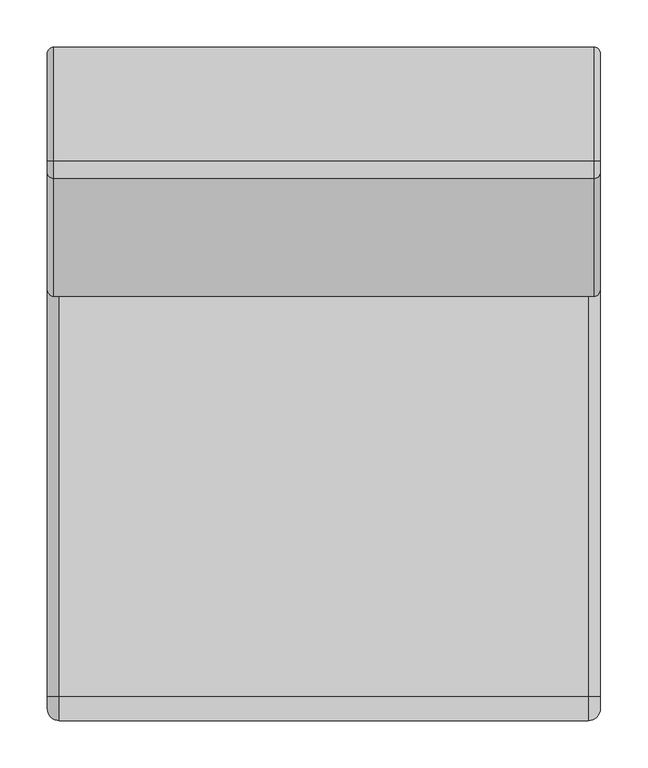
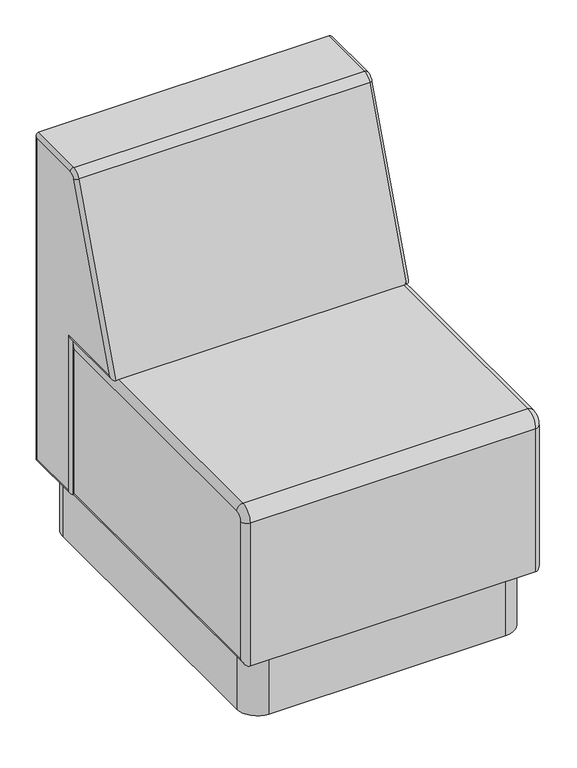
"""IFC4 building model written with IfcOpenShell, lengths in millimetres: furniture geometry, Stance_HC-Rosetta-Modular_Seating_Plinth_Base : RM100P-AL-BHP."""

from ifc_helpers import new_model, si_unit, point, frame, frame_2d, origin, origin_with_axes, place, context, project, spatial, polyline, circle_curve, ellipse_curve, trimmed, segment, composite_curve, outline, extrude, source, transform, mapped, element, save
from ifc_brep_helpers import plane_surface, cylinder_surface, revolved_surface, advanced_brep


def furniture_1c94559b(model_context):
    return source(origin(), model_context, "Body", "SolidModel", [
        extrude(outline(composite_curve([segment(trimmed(circle_curve(frame_2d((54.0078674, -657.1680567)), 11.90625), [point((54.0078674, -669.0743067))], [point((54.0078674, -645.2618067))], False, "CARTESIAN"), True, "CONTINUOUS"), segment(trimmed(circle_curve(frame_2d((54.0078674, -657.1680567)), 11.90625), [point((54.0078674, -645.2618067))], [point((54.0078674, -669.0743067))], False, "CARTESIAN"), True, "CONTINUOUS")], self_intersect=False)), origin_with_axes(), (0.0, 0.0, 1.0), 6.3627),
        extrude(outline(composite_curve([segment(trimmed(circle_curve(frame_2d((530.1921326, -657.1680567)), 11.90625), [point((530.1921326, -669.0743067))], [point((530.1921326, -645.2618067))], False, "CARTESIAN"), True, "CONTINUOUS"), segment(trimmed(circle_curve(frame_2d((530.1921326, -657.1680567)), 11.90625), [point((530.1921326, -645.2618067))], [point((530.1921326, -669.0743067))], False, "CARTESIAN"), True, "CONTINUOUS")], self_intersect=False)), origin_with_axes(), (0.0, 0.0, 1.0), 6.3627),
        extrude(outline(composite_curve([segment(trimmed(circle_curve(frame_2d((54.0078674, -54.0319433)), 11.90625), [point((54.0078674, -65.9381933))], [point((54.0078674, -42.1256933))], False, "CARTESIAN"), True, "CONTINUOUS"), segment(trimmed(circle_curve(frame_2d((54.0078674, -54.0319433)), 11.90625), [point((54.0078674, -42.1256933))], [point((54.0078674, -65.9381933))], False, "CARTESIAN"), True, "CONTINUOUS")], self_intersect=False)), origin_with_axes(), (0.0, 0.0, 1.0), 6.3627),
        extrude(outline(composite_curve([segment(trimmed(circle_curve(frame_2d((530.1921326, -54.0319433)), 11.90625), [point((530.1921326, -65.9381933))], [point((530.1921326, -42.1256933))], False, "CARTESIAN"), True, "CONTINUOUS"), segment(trimmed(circle_curve(frame_2d((530.1921326, -54.0319433)), 11.90625), [point((530.1921326, -42.1256933))], [point((530.1921326, -65.9381933))], False, "CARTESIAN"), True, "CONTINUOUS")], self_intersect=False)), origin_with_axes(), (0.0, 0.0, 1.0), 6.3627),
        extrude(outline(composite_curve([segment(trimmed(circle_curve(frame_2d((524.2875, -59.9125)), 39.6875), [point((524.2875, -20.225))], [point((563.975, -59.9125))], False, "CARTESIAN"), True, "CONTINUOUS"), segment(polyline([(563.975, -59.9125), (563.975, -651.2875)]), True, "CONTINUOUS"), segment(trimmed(circle_curve(frame_2d((524.2875, -651.2875)), 39.6875), [point((563.975, -651.2875))], [point((524.2875, -690.975))], False, "CARTESIAN"), True, "CONTINUOUS"), segment(polyline([(524.2875, -690.975), (59.9125, -690.975)]), True, "CONTINUOUS"), segment(trimmed(circle_curve(frame_2d((59.9125, -651.2875)), 39.6875), [point((59.9125, -690.975))], [point((20.225, -651.2875))], False, "CARTESIAN"), True, "CONTINUOUS"), segment(polyline([(20.225, -651.2875), (20.225, -59.9125)]), True, "CONTINUOUS"), segment(trimmed(circle_curve(frame_2d((59.9125, -59.9125)), 39.6875), [point((20.225, -59.9125))], [point((59.9125, -20.225))], False, "CARTESIAN"), True, "CONTINUOUS"), segment(polyline([(59.9125, -20.225), (524.2875, -20.225)]), True, "CONTINUOUS")], self_intersect=False)), frame((0.0, 0.0, 6.3627), z_axis=(0.0, 0.0, 1.0), x_axis=(1.0, 0.0, 0.0)), (0.0, 0.0, 1.0), 128.51892),
        advanced_brep(
        [(571.5, -711.1999758, 431.8), (571.5, -685.7999758, 457.2), (12.7, -685.7999758, 457.2), (12.7, -711.1999758, 431.8), (12.7, -711.1999758, 134.88162), (571.5, -711.1999758, 134.88162), (12.7, -120.65, 134.88162), (571.5, -120.65, 134.88162), (12.7, -120.65, 457.2), (571.5, -120.65, 457.2), (584.2, -698.4999758, 147.58162), (584.2, -133.35, 147.58162), (584.2, -133.35, 444.5), (584.2, -685.7999758, 444.5), (584.2, -698.4999758, 431.8), (0.0, -685.7999758, 444.5), (0.0, -133.35, 444.5), (0.0, -133.35, 147.58162), (0.0, -698.4999758, 147.58162), (0.0, -698.4999758, 431.8)],
        [
            (0, 1, circle_curve(frame((571.5, -685.7999758, 431.8), z_axis=(-1.0, 0.0, 0.0), x_axis=(0.0, 0.0, 1.0)), 25.4)),
            (1, 2),
            (2, 3, circle_curve(frame((12.7, -685.7999758, 431.8), z_axis=(1.0, 0.0, 0.0), x_axis=(0.0, 0.0, 1.0)), 25.4)),
            (3, 0),
            (3, 4),
            (4, 5),
            (5, 0),
            (4, 6),
            (6, 7),
            (7, 5),
            (6, 8),
            (8, 9),
            (9, 7),
            (10, 11),
            (11, 12),
            (12, 13),
            (13, 14, circle_curve(frame((584.2, -685.7999758, 431.8), z_axis=(1.0, 0.0, 0.0), x_axis=(0.0, 0.0, 1.0)), 12.7)),
            (14, 10),
            (15, 16),
            (16, 17),
            (17, 18),
            (18, 19),
            (19, 15, circle_curve(frame((0.0, -685.7999758, 431.8), z_axis=(-1.0, 0.0, 0.0), x_axis=(0.0, 0.0, 1.0)), 12.7)),
            (1, 9),
            (8, 2),
            (0, 14, circle_curve(frame((571.5, -698.4999758, 431.8), z_axis=(0.0, 0.0, 1.0), x_axis=(0.0, 1.0, 0.0)), 12.7)),
            (13, 1, circle_curve(frame((571.5, -685.7999758, 444.5), z_axis=(0.0, -1.0, 0.0), x_axis=(0.0, 0.0, -1.0)), 12.7)),
            (2, 15, circle_curve(frame((12.7, -685.7999758, 444.5), z_axis=(0.0, -1.0, 0.0), x_axis=(0.0, 0.0, -1.0)), 12.7)),
            (19, 3, circle_curve(frame((12.7, -698.4999758, 431.8), z_axis=(0.0, 0.0, 1.0), x_axis=(0.0, 1.0, 0.0)), 12.7)),
            (5, 10, ellipse_curve(frame((571.5, -698.4999758, 147.58162), z_axis=(0.0, -0.7071067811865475, 0.7071067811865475), x_axis=(0.0, 0.7071067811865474, 0.7071067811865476)), 17.9605122, 12.7)),
            (18, 4, ellipse_curve(frame((12.7, -698.4999758, 147.58162), z_axis=(0.0, -0.7071067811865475, 0.7071067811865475), x_axis=(0.0, 0.7071067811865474, 0.7071067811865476)), 17.9605122, 12.7)),
            (7, 11, ellipse_curve(frame((571.5, -133.35, 147.58162), z_axis=(0.0, -0.7071067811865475, -0.7071067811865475), x_axis=(0.0, -0.7071067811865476, 0.7071067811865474)), 17.9605122, 12.7)),
            (17, 6, ellipse_curve(frame((12.7, -133.35, 147.58162), z_axis=(0.0, -0.7071067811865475, -0.7071067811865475), x_axis=(0.0, -0.7071067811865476, 0.7071067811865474)), 17.9605122, 12.7)),
            (9, 12, ellipse_curve(frame((571.5, -133.35, 444.5), z_axis=(0.0, 0.7071067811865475, -0.7071067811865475), x_axis=(0.0, -0.7071067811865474, -0.7071067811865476)), 17.9605122, 12.7)),
            (16, 8, ellipse_curve(frame((12.7, -133.35, 444.5), z_axis=(0.0, 0.7071067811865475, -0.7071067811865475), x_axis=(0.0, -0.7071067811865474, -0.7071067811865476)), 17.9605122, 12.7)),
        ],
        [
            cylinder_surface(frame((0.0, -685.7999758, 431.8), z_axis=(1.0, 0.0, 0.0), x_axis=(0.0, 0.0, 1.0)), 25.4),
            plane_surface(frame((12.7, -711.1999758, 431.8), z_axis=(0.0, -1.0, 0.0), x_axis=(0.0, 0.0, -1.0))),
            plane_surface(frame((12.7, -711.1999758, 134.88162), z_axis=(0.0, 0.0, -1.0), x_axis=(0.0, 1.0, 0.0))),
            plane_surface(frame((12.7, -120.65, 134.88162), z_axis=(0.0, 1.0, 0.0), x_axis=(0.0, 0.0, 1.0))),
            plane_surface(frame((584.2, -133.35, 444.5), z_axis=(1.0, 0.0, 0.0), x_axis=(0.0, -1.0, 0.0))),
            plane_surface(frame((0.0, -139.7, 438.15), z_axis=(-1.0, 0.0, 0.0), x_axis=(0.0, -1.0, 0.0))),
            plane_surface(frame((12.7, -120.65, 457.2), z_axis=(0.0, 0.0, 1.0), x_axis=(0.0, -1.0, 0.0))),
            revolved_surface(trimmed(ellipse_curve(frame((571.5, -685.7999758, 444.5), z_axis=(0.0, 1.0, 0.0), x_axis=(0.0, 0.0, -1.0)), 12.7, 12.7), [point((571.5, -685.7999758, 457.2))], [point((584.2, -685.7999758, 444.5))], True, "CARTESIAN"), (0.0, -685.7999758, 431.8), (1.0, 0.0, 0.0)),
            revolved_surface(trimmed(ellipse_curve(frame((12.7, -685.7999758, 444.5), z_axis=(0.0, 1.0, 0.0), x_axis=(0.0, 0.0, -1.0)), 12.7, 12.7), [point((0.0, -685.7999758, 444.5))], [point((12.7, -685.7999758, 457.2))], True, "CARTESIAN"), (0.0, -685.7999758, 431.8), (1.0, 0.0, 0.0)),
            cylinder_surface(frame((571.5, -698.4999758, 431.8), z_axis=(0.0, 0.0, 1.0), x_axis=(0.0, 1.0, 0.0)), 12.7),
            cylinder_surface(frame((12.7, -698.4999758, 431.8), z_axis=(0.0, 0.0, 1.0), x_axis=(0.0, 1.0, 0.0)), 12.7),
            cylinder_surface(frame((571.5, -711.1999758, 147.58162), z_axis=(0.0, -1.0, 0.0), x_axis=(0.0, 0.0, 1.0)), 12.7),
            cylinder_surface(frame((12.7, -711.1999758, 147.58162), z_axis=(0.0, -1.0, 0.0), x_axis=(0.0, 0.0, 1.0)), 12.7),
            cylinder_surface(frame((571.5, -133.35, 134.88162), z_axis=(0.0, 0.0, -1.0), x_axis=(0.0, -1.0, 0.0)), 12.7),
            cylinder_surface(frame((12.7, -133.35, 134.88162), z_axis=(0.0, 0.0, -1.0), x_axis=(0.0, -1.0, 0.0)), 12.7),
            cylinder_surface(frame((571.5, -120.65, 444.5), z_axis=(0.0, 1.0, 0.0), x_axis=(0.0, 0.0, -1.0)), 12.7),
            cylinder_surface(frame((12.7, -120.65, 444.5), z_axis=(0.0, 1.0, 0.0), x_axis=(0.0, 0.0, -1.0)), 12.7),
        ],
        [
            (0, [[1, 2, 3, 4]]),
            (1, [[-4, 5, 6, 7]]),
            (2, [[-6, 8, 9, 10]]),
            (3, [[-9, 11, 12, 13]]),
            (4, [[14, 15, 16, 17, 18]]),
            (5, [[19, 20, 21, 22, 23]]),
            (6, [[-2, 24, -12, 25]]),
            (7, [[-1, 26, -17, 27]]),
            (8, [[-3, 28, -23, 29]]),
            (9, [[-7, 30, -18, -26]]),
            (10, [[-5, -29, -22, 31]]),
            (11, [[-10, 32, -14, -30]]),
            (12, [[-8, -31, -21, 33]]),
            (13, [[-13, 34, -15, -32]]),
            (14, [[-11, -33, -20, 35]]),
            (15, [[-16, -34, -24, -27]]),
            (16, [[-19, -28, -25, -35]]),
        ],
    ),
        advanced_brep(
        [(584.2, -132.3105296, 798.0936558), (584.2, -120.3764333, 806.45), (577.85, -120.3764333, 812.8), (577.85, -138.2775777, 800.2654837), (6.35, -138.2775777, 800.2654837), (6.35, -120.3764333, 812.8), (0.0, -120.3764333, 806.45), (0.0, -132.3105296, 798.0936558), (577.85, -263.1432022, 457.2), (584.2, -254.0744624, 463.55), (0.0, -254.0744624, 463.55), (6.35, -263.1432022, 457.2), (577.85, -120.65, 457.2), (584.2, -114.3, 463.55), (0.0, -114.3, 463.55), (6.35, -120.65, 457.2), (577.85, -120.65, 134.88162), (584.2, -114.3, 141.23162), (0.0, -114.3, 141.23162), (6.35, -120.65, 134.88162), (577.85, 0.0, 134.88162), (584.2, -6.35, 141.23162), (0.0, -6.35, 141.23162), (6.35, 0.0, 134.88162), (577.85, 0.0, 812.8), (584.2, -6.35, 806.45), (0.0, -6.35, 806.45), (6.35, 0.0, 812.8)],
        [
            (0, 1, circle_curve(frame((584.2, -120.3764333, 793.75), z_axis=(-1.0, 0.0, 0.0), x_axis=(0.0, 0.0, 1.0)), 12.7)),
            (1, 2, circle_curve(frame((577.85, -120.3764333, 806.45), z_axis=(0.0, -1.0, 0.0), x_axis=(0.0, 0.0, -1.0)), 6.35)),
            (2, 3, circle_curve(frame((577.85, -120.3764333, 793.75), z_axis=(1.0, 0.0, 0.0), x_axis=(0.0, 0.0, 1.0)), 19.05)),
            (3, 0, circle_curve(frame((577.85, -132.3105296, 798.0936558), z_axis=(0.0, 0.34202014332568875, 0.9396926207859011), x_axis=(0.0, 0.9396926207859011, -0.34202014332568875)), 6.35)),
            (4, 5, circle_curve(frame((6.35, -120.3764333, 793.75), z_axis=(-1.0, 0.0, 0.0), x_axis=(0.0, 0.0, 1.0)), 19.05)),
            (5, 6, circle_curve(frame((6.35, -120.3764333, 806.45), z_axis=(0.0, -1.0, 0.0), x_axis=(0.0, 0.0, -1.0)), 6.35)),
            (6, 7, circle_curve(frame((0.0, -120.3764333, 793.75), z_axis=(1.0, 0.0, 0.0), x_axis=(0.0, 0.0, 1.0)), 12.7)),
            (7, 4, circle_curve(frame((6.35, -132.3105296, 798.0936558), z_axis=(0.0, 0.3420201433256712, 0.9396926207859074), x_axis=(0.0, 0.9396926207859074, -0.3420201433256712)), 6.35)),
            (2, 5),
            (4, 3),
            (3, 8),
            (8, 9, ellipse_curve(frame((577.85, -254.0744624, 463.55), z_axis=(0.0, -0.5735764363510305, 0.8191520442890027), x_axis=(0.0, 0.8191520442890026, 0.5735764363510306)), 11.0708872, 6.35)),
            (9, 0),
            (7, 10),
            (10, 11, ellipse_curve(frame((6.35, -254.0744624, 463.55), z_axis=(0.0, -0.5735764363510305, 0.8191520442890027), x_axis=(0.0, 0.8191520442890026, 0.5735764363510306)), 11.0708872, 6.35)),
            (11, 4),
            (11, 8),
            (8, 12),
            (12, 13, ellipse_curve(frame((577.85, -114.3, 463.55), z_axis=(0.0, -0.7071067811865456, 0.7071067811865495), x_axis=(0.0, -0.7071067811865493, -0.7071067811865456)), 8.9802561, 6.35)),
            (13, 9),
            (10, 14),
            (14, 15, ellipse_curve(frame((6.35, -114.3, 463.55), z_axis=(0.0, -0.7071067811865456, 0.7071067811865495), x_axis=(0.0, -0.7071067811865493, -0.7071067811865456)), 8.9802561, 6.35)),
            (15, 11),
            (15, 12),
            (12, 16),
            (16, 17, ellipse_curve(frame((577.85, -114.3, 141.23162), z_axis=(0.0, -0.7071067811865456, 0.7071067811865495), x_axis=(0.0, 0.7071067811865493, 0.7071067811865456)), 8.9802561, 6.35)),
            (17, 13),
            (14, 18),
            (18, 19, ellipse_curve(frame((6.35, -114.3, 141.23162), z_axis=(0.0, -0.7071067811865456, 0.7071067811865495), x_axis=(0.0, 0.7071067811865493, 0.7071067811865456)), 8.9802561, 6.35)),
            (19, 15),
            (19, 16),
            (16, 20),
            (20, 21, ellipse_curve(frame((577.85, -6.35, 141.23162), z_axis=(0.0, -0.7071067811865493, -0.7071067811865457), x_axis=(0.0, -0.7071067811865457, 0.7071067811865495)), 8.9802561, 6.35)),
            (21, 17),
            (18, 22),
            (22, 23, ellipse_curve(frame((6.35, -6.35, 141.23162), z_axis=(0.0, -0.7071067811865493, -0.7071067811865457), x_axis=(0.0, -0.7071067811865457, 0.7071067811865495)), 8.9802561, 6.35)),
            (23, 19),
            (23, 20),
            (20, 24),
            (24, 25, ellipse_curve(frame((577.85, -6.35, 806.45), z_axis=(0.0, 0.7071067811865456, -0.7071067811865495), x_axis=(0.0, -0.7071067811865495, -0.7071067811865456)), 8.9802561, 6.35)),
            (25, 21),
            (22, 26),
            (26, 27, ellipse_curve(frame((6.35, -6.35, 806.45), z_axis=(0.0, 0.7071067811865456, -0.7071067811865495), x_axis=(0.0, -0.7071067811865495, -0.7071067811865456)), 8.9802561, 6.35)),
            (27, 23),
            (27, 24),
            (1, 25),
            (24, 2),
            (6, 26),
            (5, 27),
        ],
        [
            revolved_surface(trimmed(ellipse_curve(frame((577.85, -120.3764333, 806.45), z_axis=(0.0, 1.0, 0.0), x_axis=(0.0, 0.0, -1.0)), 6.35, 6.35), [point((577.85, -120.3764333, 812.8))], [point((584.2, -120.3764333, 806.45))], True, "CARTESIAN"), (0.0, -120.3764333, 793.75), (1.0, 0.0, 0.0)),
            revolved_surface(trimmed(ellipse_curve(frame((6.35, -120.3764333, 806.45), z_axis=(0.0, 1.0, 0.0), x_axis=(0.0, 0.0, -1.0)), 6.35, 6.35), [point((0.0, -120.3764333, 806.45))], [point((6.35, -120.3764333, 812.8))], True, "CARTESIAN"), (0.0, -120.3764333, 793.75), (1.0, 0.0, 0.0)),
            cylinder_surface(frame((0.0, -120.3764333, 793.75), z_axis=(1.0, 0.0, 0.0), x_axis=(0.0, 0.0, 1.0)), 19.05),
            cylinder_surface(frame((577.85, -132.3105296, 798.0936558), z_axis=(0.0, 0.342020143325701, 0.9396926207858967), x_axis=(0.0, 0.9396926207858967, -0.342020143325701)), 6.35),
            cylinder_surface(frame((6.35, -132.3105296, 798.0936558), z_axis=(0.0, 0.342020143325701, 0.9396926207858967), x_axis=(0.0, 0.9396926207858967, -0.342020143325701)), 6.35),
            plane_surface(frame((6.35, -138.2775777, 800.2654837), z_axis=(0.0, -0.9396926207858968, 0.34202014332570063), x_axis=(0.0, -0.34202014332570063, -0.9396926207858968))),
            cylinder_surface(frame((577.85, -263.1432022, 463.55), z_axis=(0.0, -1.0, 0.0), x_axis=(0.0, 0.0, 1.0)), 6.35),
            cylinder_surface(frame((6.35, -263.1432022, 463.55), z_axis=(0.0, -1.0, 0.0), x_axis=(0.0, 0.0, 1.0)), 6.35),
            plane_surface(frame((6.35, -263.1432022, 457.2), z_axis=(0.0, 0.0, -1.0), x_axis=(0.0, 1.0, 0.0))),
            cylinder_surface(frame((577.85, -114.3, 457.2), z_axis=(0.0, 0.0, 1.0), x_axis=(0.0, 1.0, 0.0)), 6.35),
            cylinder_surface(frame((6.35, -114.3, 457.2), z_axis=(0.0, 0.0, 1.0), x_axis=(0.0, 1.0, 0.0)), 6.35),
            plane_surface(frame((6.35, -120.65, 457.2), z_axis=(0.0, -1.0, 0.0), x_axis=(0.0, 0.0, -1.0))),
            cylinder_surface(frame((577.85, -120.65, 141.23162), z_axis=(0.0, -1.0, 0.0), x_axis=(0.0, 0.0, 1.0)), 6.35),
            cylinder_surface(frame((6.35, -120.65, 141.23162), z_axis=(0.0, -1.0, 0.0), x_axis=(0.0, 0.0, 1.0)), 6.35),
            plane_surface(frame((6.35, -120.65, 134.88162), z_axis=(0.0, 0.0, -1.0), x_axis=(0.0, 1.0, 0.0))),
            cylinder_surface(frame((577.85, -6.35, 134.88162), z_axis=(0.0, 0.0, -1.0), x_axis=(0.0, -1.0, 0.0)), 6.35),
            cylinder_surface(frame((6.35, -6.35, 134.88162), z_axis=(0.0, 0.0, -1.0), x_axis=(0.0, -1.0, 0.0)), 6.35),
            plane_surface(frame((6.35, 0.0, 134.88162), z_axis=(0.0, 1.0, 0.0), x_axis=(0.0, 0.0, 1.0))),
            cylinder_surface(frame((577.85, 0.0, 806.45), z_axis=(0.0, 1.0, 0.0), x_axis=(0.0, 0.0, -1.0)), 6.35),
            plane_surface(frame((584.2, -6.35, 806.45), z_axis=(1.0, 0.0, 0.0), x_axis=(0.0, -1.0, 0.0))),
            plane_surface(frame((0.0, -12.7, 800.1), z_axis=(-1.0, 0.0, 0.0), x_axis=(0.0, -1.0, 0.0))),
            cylinder_surface(frame((6.35, 0.0, 806.45), z_axis=(0.0, 1.0, 0.0), x_axis=(0.0, 0.0, -1.0)), 6.35),
            plane_surface(frame((6.35, 0.0, 812.8), z_axis=(0.0, 0.0, 1.0), x_axis=(0.0, -1.0, 0.0))),
        ],
        [
            (0, [[1, 2, 3, 4]]),
            (1, [[5, 6, 7, 8]]),
            (2, [[-3, 9, -5, 10]]),
            (3, [[-4, 11, 12, 13]]),
            (4, [[-8, 14, 15, 16]]),
            (5, [[-10, -16, 17, -11]]),
            (6, [[-12, 18, 19, 20]]),
            (7, [[-15, 21, 22, 23]]),
            (8, [[-17, -23, 24, -18]]),
            (9, [[-19, 25, 26, 27]]),
            (10, [[-22, 28, 29, 30]]),
            (11, [[-24, -30, 31, -25]]),
            (12, [[-26, 32, 33, 34]]),
            (13, [[-29, 35, 36, 37]]),
            (14, [[-31, -37, 38, -32]]),
            (15, [[-33, 39, 40, 41]]),
            (16, [[-36, 42, 43, 44]]),
            (17, [[-38, -44, 45, -39]]),
            (18, [[-2, 46, -40, 47]]),
            (19, [[-1, -13, -20, -27, -34, -41, -46]]),
            (20, [[-7, 48, -42, -35, -28, -21, -14]]),
            (21, [[-6, 49, -43, -48]]),
            (22, [[-9, -47, -45, -49]]),
        ],
    ),
    ])


if __name__ == "__main__":
    model = new_model("IFC4")
    model_context = context("Model", 3, world=origin())
    ifc_project = project(units=[si_unit("LENGTHUNIT", "METRE", prefix="MILLI")], contexts=[model_context])
    site = spatial("IfcSite", under=ifc_project)
    building = spatial("IfcBuilding", under=site)
    placement = place(None, origin())
    furniture_shape = furniture_1c94559b(model_context)
    element("IfcFurniture", 1, ObjectType="Stance_HC-Rosetta-Modular_Seating_Plinth_Base : RM100P-AL-BHP", at=placement, inside=building, context=model_context, shape_type="MappedRepresentation", body=[
        mapped(furniture_shape, transform((0.0, 0.0, 0.0), x_axis=(1.0, 0.0, 0.0), y_axis=(0.0, 1.0, 0.0), z_axis=(0.0, 0.0, 1.0))),
    ])
    save(model, "model.ifc")
